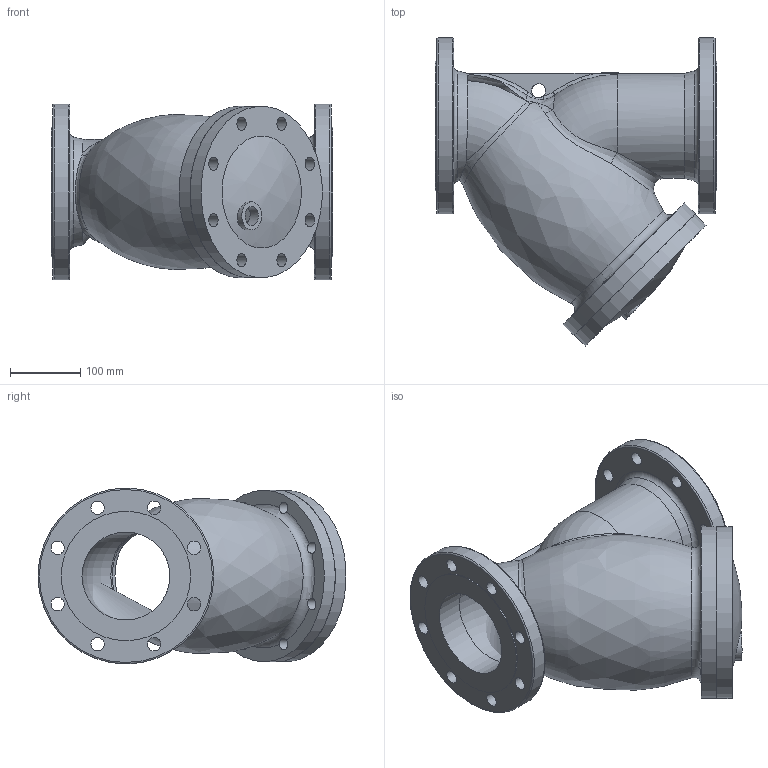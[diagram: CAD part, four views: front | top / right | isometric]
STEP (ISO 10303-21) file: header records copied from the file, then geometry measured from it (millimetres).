
FILE_DESCRIPTION(/* description */ ('STEP AP203'),/* implementation_level */ '2;1');
FILE_NAME(/* name */ '',/* time_stamp */ '2024-12-10T11:52:07+07:00',/* author */ ('Eva'),/* organization */ (''),/* preprocessor_version */ 'ST-DEVELOPER v20',/* originating_system */ 'Autodesk Inventor 2025',/* authorisation */ '');
FILE_SCHEMA (('AUTOMOTIVE_DESIGN { 1 0 10303 214 3 1 1 }'));
Length unit declared in the file: metre
Products named in the file (4): 德标过滤器125; 德标过滤器125(2); 零件1; 零件2
Assembly tree (3 placements, depth 3):
  德标过滤器125
    德标过滤器125(2)
      零件1
      零件2
Bounding box: 400 x 437.92 x 250 mm (x, y, z)
Volume: 6293015.8 mm3; surface area: 895769.9 mm2
Topology: 2 solids, 2 shells, 113 faces, 308 edges, 200 vertices
Faces by surface type: cylinder 52, plane 21, bspline 19, torus 16, cone 3, sphere 2
Full cylindrical faces by diameter (mm): 16 x8, 19 x24, 20 x1, 26.906 x1, 40 x1, 125 x4, 138 x1, 139 x1, 140 x1, 149 x1, 184 x2, 244 x2, 250 x2
Entity records: 10544 total; most frequent: CARTESIAN_POINT 7487, ORIENTED_EDGE 616, DIRECTION 601, EDGE_CURVE 308, AXIS2_PLACEMENT_3D 271, VERTEX_POINT 200, EDGE_LOOP 186, CIRCLE 163
